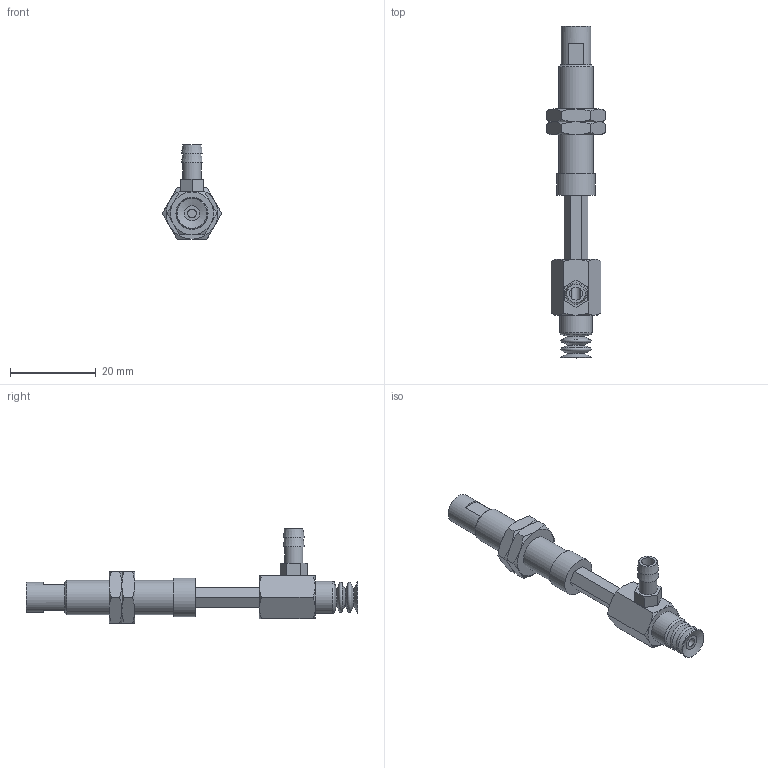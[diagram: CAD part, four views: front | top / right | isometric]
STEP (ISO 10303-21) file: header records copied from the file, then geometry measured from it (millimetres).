
FILE_DESCRIPTION(('STEP AP203'),'1');
FILE_NAME('-T.stp','2025-04-03T07:41:51',(' '),(' '),'Spatial InterOp 3D',' ',' ');
FILE_SCHEMA(('CONFIG_CONTROL_DESIGN'));
Length unit declared in the file: millimetre
Products named in the file (7): BNABPCYH-7-15-※-T; Connector_h-7-15; Nut napc_h-7-15; NAPCTH-7-15-FBODY; NAPCTH-7-15-MBODY; BPCG-7-※; T
Assembly tree (7 placements, depth 2):
  BNABPCYH-7-15-※-T
    Connector_h-7-15
    Nut napc_h-7-15  x2
    NAPCTH-7-15-FBODY
    NAPCTH-7-15-MBODY
    BPCG-7-※
    T
Bounding box: 13.86 x 77.5 x 22 mm (x, y, z)
Volume: 4060.4 mm3; surface area: 5274 mm2
Topology: 7 solids, 7 shells, 164 faces, 345 edges, 208 vertices
Faces by surface type: plane 75, cone 58, cylinder 18, torus 13
Full cylindrical faces by diameter (mm): 2 x2, 3 x1, 4 x2, 4.134 x2, 4.3 x1, 5 x2, 6 x2, 7 x1, 7.188 x2, 7.5 x1, 8 x1, 9 x1
Entity records: 4066 total; most frequent: CARTESIAN_POINT 919, DIRECTION 586, ORIENTED_EDGE 490, AXIS2_PLACEMENT_3D 246, EDGE_CURVE 245, EDGE_LOOP 214, VERTEX_POINT 177, FACE_OUTER_BOUND 171
